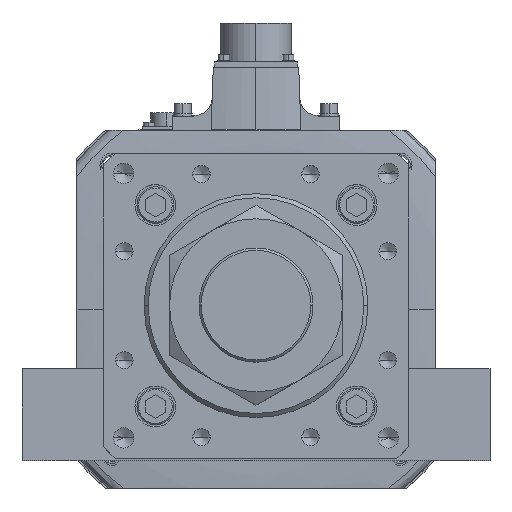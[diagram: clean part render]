
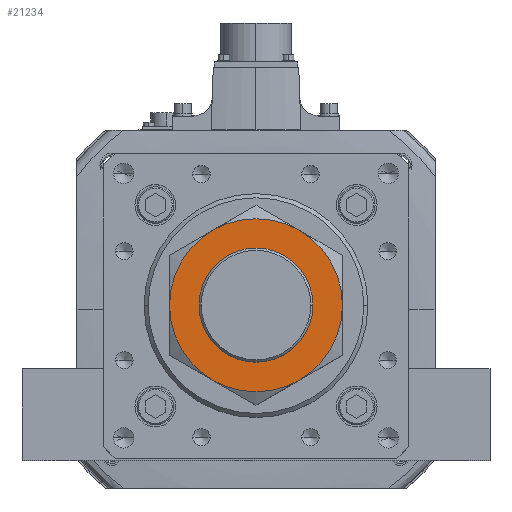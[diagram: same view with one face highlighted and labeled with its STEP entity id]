
A CAD part, top view. The second image highlights one B-rep face of the part: STEP entity #21234.
In plain terms, the highlighted planar face has unit normal (0, 0, 1).
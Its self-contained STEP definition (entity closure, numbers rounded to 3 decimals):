
#32 = CIRCLE ( 'NONE', #21983, 28. ) ;
#561 = DIRECTION ( 'NONE',  ( 1., 0., 0. ) ) ;
#843 = DIRECTION ( 'NONE',  ( 0., 0., -1. ) ) ;
#1675 = DIRECTION ( 'NONE',  ( 1., 0., 0. ) ) ;
#2747 = CARTESIAN_POINT ( 'NONE',  ( -21.25, -36.806, 34. ) ) ;
#2919 = DIRECTION ( 'NONE',  ( 1., 0., 0. ) ) ;
#3741 = DIRECTION ( 'NONE',  ( 0., 0., 1. ) ) ;
#3944 = VERTEX_POINT ( 'NONE', #15464 ) ;
#5193 = DIRECTION ( 'NONE',  ( 0., 0., 1. ) ) ;
#5510 = AXIS2_PLACEMENT_3D ( 'NONE', #52366, #43784, #48262 ) ;
#6004 = EDGE_LOOP ( 'NONE', ( #9036, #22886 ) ) ;
#6204 = CIRCLE ( 'NONE', #17587, 28. ) ;
#7862 = CIRCLE ( 'NONE', #43712, 42.5 ) ;
#8334 = AXIS2_PLACEMENT_3D ( 'NONE', #40867, #843, #36745 ) ;
#9036 = ORIENTED_EDGE ( 'NONE', *, *, #55596, .F. ) ;
#9325 = CIRCLE ( 'NONE', #36576, 42.5 ) ;
#10003 = FACE_BOUND ( 'NONE', #6004, .T. ) ;
#10074 = ORIENTED_EDGE ( 'NONE', *, *, #20306, .F. ) ;
#10108 = CARTESIAN_POINT ( 'NONE',  ( 28., 0., 34. ) ) ;
#10229 = VERTEX_POINT ( 'NONE', #42994 ) ;
#15464 = CARTESIAN_POINT ( 'NONE',  ( 42.5, 0., 34. ) ) ;
#15541 = VERTEX_POINT ( 'NONE', #32307 ) ;
#15728 = ORIENTED_EDGE ( 'NONE', *, *, #25472, .F. ) ;
#17587 = AXIS2_PLACEMENT_3D ( 'NONE', #30347, #3741, #34805 ) ;
#19166 = CIRCLE ( 'NONE', #5510, 42.5 ) ;
#19752 = DIRECTION ( 'NONE',  ( 1., 0., 0. ) ) ;
#20143 = CARTESIAN_POINT ( 'NONE',  ( 21.25, -36.806, 34. ) ) ;
#20306 = EDGE_CURVE ( 'NONE', #29475, #32937, #9325, .T. ) ;
#21234 = ADVANCED_FACE ( 'NONE', ( #46828, #10003 ), #40335, .T. ) ;
#21983 = AXIS2_PLACEMENT_3D ( 'NONE', #23047, #5193, #561 ) ;
#22620 = DIRECTION ( 'NONE',  ( 1., 0., 0. ) ) ;
#22886 = ORIENTED_EDGE ( 'NONE', *, *, #48339, .F. ) ;
#23047 = CARTESIAN_POINT ( 'NONE',  ( 0., 0., 34. ) ) ;
#23102 = EDGE_CURVE ( 'NONE', #30994, #3944, #34803, .T. ) ;
#23331 = DIRECTION ( 'NONE',  ( 0., 0., -1. ) ) ;
#23631 = VERTEX_POINT ( 'NONE', #56245 ) ;
#23675 = ORIENTED_EDGE ( 'NONE', *, *, #41615, .F. ) ;
#24741 = VERTEX_POINT ( 'NONE', #10108 ) ;
#25472 = EDGE_CURVE ( 'NONE', #3944, #29475, #19166, .T. ) ;
#25810 = CARTESIAN_POINT ( 'NONE',  ( 0., 0., 34. ) ) ;
#27649 = CARTESIAN_POINT ( 'NONE',  ( 21.25, 36.806, 34. ) ) ;
#29475 = VERTEX_POINT ( 'NONE', #20143 ) ;
#30347 = CARTESIAN_POINT ( 'NONE',  ( 0., 0., 34. ) ) ;
#30430 = EDGE_CURVE ( 'NONE', #10229, #30994, #42639, .T. ) ;
#30977 = CARTESIAN_POINT ( 'NONE',  ( 0., 0., 34. ) ) ;
#30994 = VERTEX_POINT ( 'NONE', #27649 ) ;
#31659 = CIRCLE ( 'NONE', #8334, 42.5 ) ;
#31878 = ORIENTED_EDGE ( 'NONE', *, *, #23102, .F. ) ;
#31896 = DIRECTION ( 'NONE',  ( 1., 0., 0. ) ) ;
#32307 = CARTESIAN_POINT ( 'NONE',  ( -28., 0., 34. ) ) ;
#32930 = DIRECTION ( 'NONE',  ( 0., 0., -1. ) ) ;
#32937 = VERTEX_POINT ( 'NONE', #2747 ) ;
#34803 = CIRCLE ( 'NONE', #51581, 42.5 ) ;
#34805 = DIRECTION ( 'NONE',  ( 1., 0., 0. ) ) ;
#36350 = CARTESIAN_POINT ( 'NONE',  ( 0., 0., 34. ) ) ;
#36576 = AXIS2_PLACEMENT_3D ( 'NONE', #25810, #56965, #2919 ) ;
#36745 = DIRECTION ( 'NONE',  ( -1., 0., 0. ) ) ;
#37248 = CARTESIAN_POINT ( 'NONE',  ( 0., 0., 34. ) ) ;
#38570 = EDGE_LOOP ( 'NONE', ( #15728, #31878, #51757, #50039, #23675, #10074 ) ) ;
#40063 = EDGE_CURVE ( 'NONE', #23631, #10229, #31659, .T. ) ;
#40335 = PLANE ( 'NONE',  #41443 ) ;
#40867 = CARTESIAN_POINT ( 'NONE',  ( 0., 0., 34. ) ) ;
#41443 = AXIS2_PLACEMENT_3D ( 'NONE', #30977, #49318, #22620 ) ;
#41615 = EDGE_CURVE ( 'NONE', #32937, #23631, #7862, .T. ) ;
#42491 = DIRECTION ( 'NONE',  ( 0., 0., -1. ) ) ;
#42639 = CIRCLE ( 'NONE', #44412, 42.5 ) ;
#42994 = CARTESIAN_POINT ( 'NONE',  ( -21.25, 36.806, 34. ) ) ;
#43712 = AXIS2_PLACEMENT_3D ( 'NONE', #50861, #32930, #1675 ) ;
#43784 = DIRECTION ( 'NONE',  ( 0., 0., -1. ) ) ;
#44412 = AXIS2_PLACEMENT_3D ( 'NONE', #36350, #23331, #31896 ) ;
#46828 = FACE_OUTER_BOUND ( 'NONE', #38570, .T. ) ;
#48262 = DIRECTION ( 'NONE',  ( 1., 0., 0. ) ) ;
#48339 = EDGE_CURVE ( 'NONE', #24741, #15541, #6204, .T. ) ;
#49318 = DIRECTION ( 'NONE',  ( 0., 0., 1. ) ) ;
#50039 = ORIENTED_EDGE ( 'NONE', *, *, #40063, .F. ) ;
#50861 = CARTESIAN_POINT ( 'NONE',  ( 0., 0., 34. ) ) ;
#51581 = AXIS2_PLACEMENT_3D ( 'NONE', #37248, #42491, #19752 ) ;
#51757 = ORIENTED_EDGE ( 'NONE', *, *, #30430, .F. ) ;
#52366 = CARTESIAN_POINT ( 'NONE',  ( 0., 0., 34. ) ) ;
#55596 = EDGE_CURVE ( 'NONE', #15541, #24741, #32, .T. ) ;
#56245 = CARTESIAN_POINT ( 'NONE',  ( -42.5, 0., 34. ) ) ;
#56965 = DIRECTION ( 'NONE',  ( 0., 0., -1. ) ) ;
